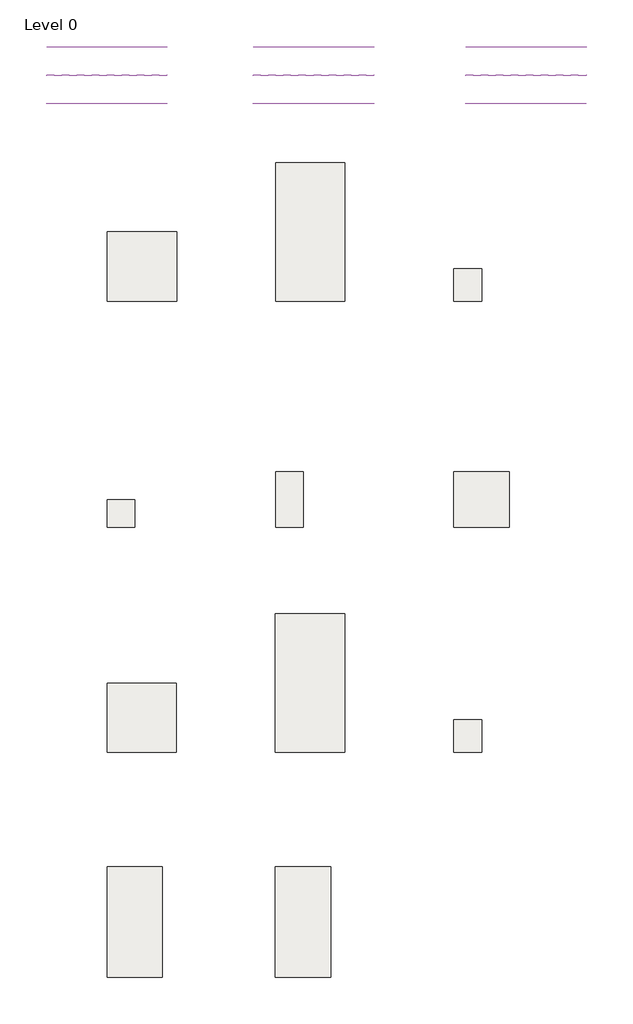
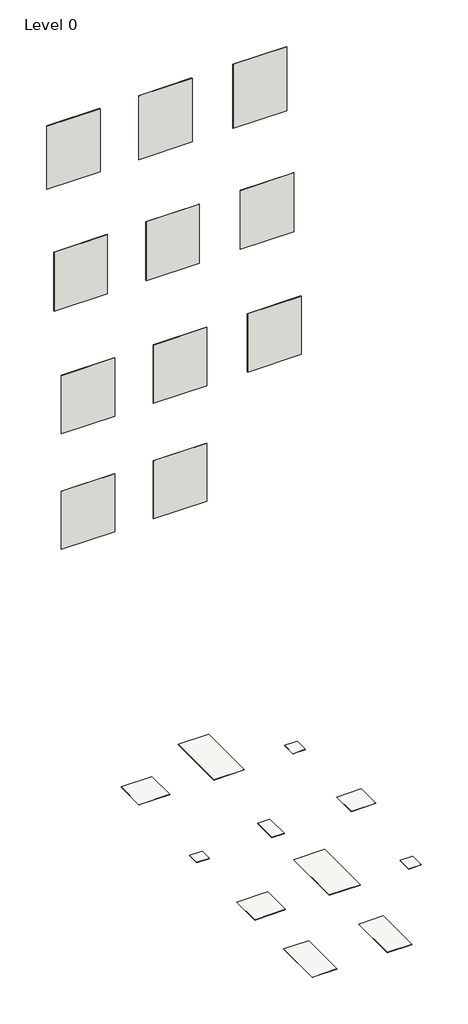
# One storey: 11 slabs, 11 walls.
"""IFC4 building model written with IfcOpenShell, lengths in millimetres."""

from ifc_helpers import new_model, si_unit, frame, origin, place, context, project, spatial, polyline, outline, extrude, element, save

model = new_model("IFC4")

# Units and contexts
model_context = context("Model", 3, world=origin())
ifc_project = project(units=[si_unit("LENGTHUNIT", "METRE", prefix="MILLI")], contexts=[model_context])

# Site, building, storey
site = spatial("IfcSite", under=ifc_project)
building = spatial("IfcBuilding", under=site)
storey = spatial("IfcBuildingStorey", under=building, Name="Level 0", Elevation=0.0)

# Slabs
placement = place(None, origin())
element("IfcSlab", 1, ObjectType="Floor_Tiles_Refin-Prestigio_Travertino-Beige-Lucido-Mosaico-Cube 30.4x35.2 OO30", at=placement, inside=storey, context=model_context, shape_type="SweptSolid", body=[
    extrude(outline(polyline([(10631.1861419, 5741.4623743), (10631.1861419, 5389.4623743), (10327.1861419, 5389.4623743), (10327.1861419, 5741.4623743), (10631.1861419, 5741.4623743)])), frame((0.0, 0.0, -10.0), z_axis=(0.0, 0.0, 1.0), x_axis=(1.0, 0.0, 0.0)), (0.0, 0.0, 1.0), 10.0),
])
element("IfcSlab", 2, ObjectType="Floor_Tiles_Refin-Prestigio_Travertino-Beige-Lucido-75x75 OO01", at=placement, inside=storey, context=model_context, shape_type="SweptSolid", body=[
    extrude(outline(polyline([(7324.3752062, 6139.4623743), (7324.3752062, 5389.4623743), (6574.3752062, 5389.4623743), (6574.3752062, 6139.4623743), (7324.3752062, 6139.4623743)])), frame((0.0, 0.0, -10.0), z_axis=(0.0, 0.0, 1.0), x_axis=(1.0, 0.0, 0.0)), (0.0, 0.0, 1.0), 10.0),
])
element("IfcSlab", 3, ObjectType="Floor_Tiles_Refin-Prestigio_Travertino-Beige-Soft-60x60 OO04", at=placement, inside=storey, context=model_context, shape_type="SweptSolid", body=[
    extrude(outline(polyline([(10927.1861419, 3539.4623743), (10927.1861419, 2939.4623743), (10327.1861419, 2939.4623743), (10327.1861419, 3539.4623743), (10927.1861419, 3539.4623743)])), frame((0.0, 0.0, -10.0), z_axis=(0.0, 0.0, 1.0), x_axis=(1.0, 0.0, 0.0)), (0.0, 0.0, 1.0), 10.0),
])
element("IfcSlab", 4, ObjectType="Floor_Tiles_Refin-Prestigio_Travertino-Beige-Soft-30x60 OO07", at=placement, inside=storey, context=model_context, shape_type="SweptSolid", body=[
    extrude(outline(polyline([(8697.3924055, 3539.4623743), (8697.3924055, 2939.4623743), (8397.3924055, 2939.4623743), (8397.3924055, 3539.4623743), (8697.3924055, 3539.4623743)])), frame((0.0, 0.0, -10.0), z_axis=(0.0, 0.0, 1.0), x_axis=(1.0, 0.0, 0.0)), (0.0, 0.0, 1.0), 10.0),
])
element("IfcSlab", 5, ObjectType="Floor_Tiles_Refin-Prestigio_Travertino-Beige-Lucido-Mosaico-T 30x30 OO36", at=placement, inside=storey, context=model_context, shape_type="SweptSolid", body=[
    extrude(outline(polyline([(6874.3752062, 3239.4623743), (6874.3752062, 2939.4623743), (6574.3752062, 2939.4623743), (6574.3752062, 3239.4623743), (6874.3752062, 3239.4623743)])), frame((0.0, 0.0, -10.0), z_axis=(0.0, 0.0, 1.0), x_axis=(1.0, 0.0, 0.0)), (0.0, 0.0, 1.0), 10.0),
])
element("IfcSlab", 6, ObjectType="Floor_Tiles_Refin-Prestigio_Travertino-Beige-Soft-75x75 ON98", at=placement, inside=storey, context=model_context, shape_type="SweptSolid", body=[
    extrude(outline(polyline([(7322.6009331, 1253.4367235), (7322.6009331, 503.4367235), (6572.6009331, 503.4367235), (6572.6009331, 1253.4367235), (7322.6009331, 1253.4367235)])), frame((0.0, 0.0, -10.0), z_axis=(0.0, 0.0, 1.0), x_axis=(1.0, 0.0, 0.0)), (0.0, 0.0, 1.0), 10.0),
])
element("IfcSlab", 7, ObjectType="Floor_Tiles_Refin-Prestigio_Travertino-Beige-Lucido-75x150 OM86", at=placement, inside=storey, context=model_context, shape_type="SweptSolid", body=[
    extrude(outline(polyline([(9147.3924055, 6888.4192064), (9147.3924055, 5388.4192064), (8397.3924055, 5388.4192064), (8397.3924055, 6888.4192064), (9147.3924055, 6888.4192064)])), frame((0.0, 0.0, -10.0), z_axis=(0.0, 0.0, 1.0), x_axis=(1.0, 0.0, 0.0)), (0.0, 0.0, 1.0), 10.0),
])
element("IfcSlab", 8, ObjectType="Floor_Tiles_Refin-Prestigio_Travertino-Beige-Soft-75x150 OM83", at=placement, inside=storey, context=model_context, shape_type="SweptSolid", body=[
    extrude(outline(polyline([(9145.6181323, 2003.4367235), (9145.6181323, 503.4367235), (8395.6181323, 503.4367235), (8395.6181323, 2003.4367235), (9145.6181323, 2003.4367235)])), frame((0.0, 0.0, -10.0), z_axis=(0.0, 0.0, 1.0), x_axis=(1.0, 0.0, 0.0)), (0.0, 0.0, 1.0), 10.0),
])
element("IfcSlab", 9, ObjectType="Floor_Tiles_Refin-Prestigio_Travertino-Beige-Soft-Mosaico-Cube 30.4x35.2 OO33", at=placement, inside=storey, context=model_context, shape_type="SweptSolid", body=[
    extrude(outline(polyline([(10629.4118688, 855.4367235), (10629.4118688, 503.4367235), (10325.4118688, 503.4367235), (10325.4118688, 855.4367235), (10629.4118688, 855.4367235)])), frame((0.0, 0.0, -10.0), z_axis=(0.0, 0.0, 1.0), x_axis=(1.0, 0.0, 0.0)), (0.0, 0.0, 1.0), 10.0),
])
element("IfcSlab", 10, ObjectType="Floor_Tiles_Refin-Prestigio_Travertino-Beige-Soft-60x120 OZ35", at=placement, inside=storey, context=model_context, shape_type="SweptSolid", body=[
    extrude(outline(polyline([(7172.6009331, -732.5889273), (7172.6009331, -1932.5889273), (6572.6009331, -1932.5889273), (6572.6009331, -732.5889273), (7172.6009331, -732.5889273)])), frame((0.0, 0.0, -10.0), z_axis=(0.0, 0.0, 1.0), x_axis=(1.0, 0.0, 0.0)), (0.0, 0.0, 1.0), 10.0),
])
element("IfcSlab", 11, ObjectType="Floor_Tiles_Refin-Prestigio_Travertino-Dorico-Beige-60x120 RK78", at=placement, inside=storey, context=model_context, shape_type="SweptSolid", body=[
    extrude(outline(polyline([(8995.6181323, -732.5889273), (8995.6181323, -1932.5889273), (8395.6181323, -1932.5889273), (8395.6181323, -732.5889273), (8995.6181323, -732.5889273)])), frame((0.0, 0.0, -10.0), z_axis=(0.0, 0.0, 1.0), x_axis=(1.0, 0.0, 0.0)), (0.0, 0.0, 1.0), 10.0),
])

# Walls
element("IfcWall", 12, ObjectType="Floor_Tiles_Refin-Prestigio_Travertino-Beige-Lucido-75x150 OM86", at=placement, inside=storey, context=model_context, shape_type="SweptSolid", body=[
    extrude(outline(polyline([(9457.3752062, 8132.3838631), (8157.3752062, 8132.3838631), (8157.3752062, 8142.3838631), (9457.3752062, 8142.3838631), (9457.3752062, 8132.3838631)])), frame((0.0, 0.0, 14387.6770443), z_axis=(0.0, 0.0, 1.0), x_axis=(1.0, 0.0, 0.0)), (0.0, 0.0, 1.0), 1641.7417352),
])
element("IfcWall", 13, ObjectType="Floor_Tiles_Refin-Prestigio_Travertino-Beige-Lucido-Mosaico-Cube 30.4x35.2 OO30", at=placement, inside=storey, context=model_context, shape_type="SweptSolid", body=[
    extrude(outline(polyline([(11757.3752062, 8132.3838631), (10457.3752062, 8132.3838631), (10457.3752062, 8142.3838631), (11757.3752062, 8142.3838631), (11757.3752062, 8132.3838631)])), frame((0.0, 0.0, 14387.6770443), z_axis=(0.0, 0.0, 1.0), x_axis=(1.0, 0.0, 0.0)), (0.0, 0.0, 1.0), 1641.7417352),
])
element("IfcWall", 14, ObjectType="Floor_Tiles_Refin-Prestigio_Travertino-Beige-Lucido-75x75 OO01", at=placement, inside=storey, context=model_context, shape_type="SweptSolid", body=[
    extrude(outline(polyline([(7217.3752062, 8132.3838631), (5917.3752062, 8132.3838631), (5917.3752062, 8142.3838631), (7217.3752062, 8142.3838631), (7217.3752062, 8132.3838631)])), frame((0.0, 0.0, 14403.7267346), z_axis=(0.0, 0.0, 1.0), x_axis=(1.0, 0.0, 0.0)), (0.0, 0.0, 1.0), 1625.692045),
])
element("IfcWall", 15, ObjectType="Floor_Tiles_Refin-Prestigio_Travertino-Beige-Lucido-Mosaico-T 30x30 OO36", at=placement, inside=storey, context=model_context, shape_type="SweptSolid", body=[
    extrude(outline(polyline([(7217.3752062, 7827.3838631), (5917.3752062, 7827.3838631), (5917.3752062, 7837.3838631), (7217.3752062, 7837.3838631), (7217.3752062, 7827.3838631)])), frame((0.0, 0.0, 11452.5436262), z_axis=(0.0, 0.0, 1.0), x_axis=(1.0, 0.0, 0.0)), (0.0, 0.0, 1.0), 1513.1985566),
])
element("IfcWall", 16, ObjectType="Floor_Tiles_Refin-Prestigio_Travertino-Beige-Soft-30x60 OO07", at=placement, inside=storey, context=model_context, shape_type="SweptSolid", body=[
    extrude(outline(polyline([(9457.3752062, 7827.3838631), (8157.3752062, 7827.3838631), (8157.3752062, 7837.3838631), (9457.3752062, 7837.3838631), (9457.3752062, 7827.3838631)])), frame((0.0, 0.0, 11452.5436262), z_axis=(0.0, 0.0, 1.0), x_axis=(1.0, 0.0, 0.0)), (0.0, 0.0, 1.0), 1513.1985566),
])
element("IfcWall", 17, ObjectType="Floor_Tiles_Refin-Prestigio_Travertino-Beige-Soft-60x60 OO04", at=placement, inside=storey, context=model_context, shape_type="SweptSolid", body=[
    extrude(outline(polyline([(11757.3752062, 7827.3838631), (10457.3752062, 7827.3838631), (10457.3752062, 7837.3838631), (11757.3752062, 7837.3838631), (11757.3752062, 7827.3838631)])), frame((0.0, 0.0, 11452.5436262), z_axis=(0.0, 0.0, 1.0), x_axis=(1.0, 0.0, 0.0)), (0.0, 0.0, 1.0), 1513.1985566),
])
element("IfcWall", 18, ObjectType="Floor_Tiles_Refin-Prestigio_Travertino-Beige-Soft-75x75 ON98", at=placement, inside=storey, context=model_context, shape_type="SweptSolid", body=[
    extrude(outline(polyline([(7217.3752062, 7522.3838631), (5917.3752062, 7522.3838631), (5917.3752062, 7532.3838631), (7217.3752062, 7532.3838631), (7217.3752062, 7522.3838631)])), frame((0.0, 0.0, 8479.1027214), z_axis=(0.0, 0.0, 1.0), x_axis=(1.0, 0.0, 0.0)), (0.0, 0.0, 1.0), 1502.5740159),
])
element("IfcWall", 19, ObjectType="Floor_Tiles_Refin-Prestigio_Travertino-Beige-Soft-75x150 OM83", at=placement, inside=storey, context=model_context, shape_type="SweptSolid", body=[
    extrude(outline(polyline([(9457.3752062, 7522.3838631), (8157.3752062, 7522.3838631), (8157.3752062, 7532.3838631), (9457.3752062, 7532.3838631), (9457.3752062, 7522.3838631)])), frame((0.0, 0.0, 8479.1027214), z_axis=(0.0, 0.0, 1.0), x_axis=(1.0, 0.0, 0.0)), (0.0, 0.0, 1.0), 1502.5740159),
])
element("IfcWall", 20, ObjectType="Floor_Tiles_Refin-Prestigio_Travertino-Beige-Soft-Mosaico-Cube 30.4x35.2 OO33", at=placement, inside=storey, context=model_context, shape_type="SweptSolid", body=[
    extrude(outline(polyline([(11757.3752062, 7522.3838631), (10457.3752062, 7522.3838631), (10457.3752062, 7532.3838631), (11757.3752062, 7532.3838631), (11757.3752062, 7522.3838631)])), frame((0.0, 0.0, 8479.1027214), z_axis=(0.0, 0.0, 1.0), x_axis=(1.0, 0.0, 0.0)), (0.0, 0.0, 1.0), 1502.5740159),
])
element("IfcWall", 21, ObjectType="Floor_Tiles_Refin-Prestigio_Travertino-Beige-Soft-60x120 OZ35", at=placement, inside=storey, context=model_context, shape_type="SweptSolid", body=[
    extrude(outline(polyline([(5917.3752062, 7532.3838631), (7217.3752062, 7532.3838631), (7217.3752062, 7522.3838631), (5917.3752062, 7522.3838631), (5917.3752062, 7532.3838631)])), frame((0.0, 0.0, 5505.6618166), z_axis=(0.0, 0.0, 1.0), x_axis=(1.0, 0.0, 0.0)), (0.0, 0.0, 1.0), 1491.9494753),
])
element("IfcWall", 22, ObjectType="Floor_Tiles_Refin-Prestigio_Travertino-Dorico-Beige-60x120 RK78", at=placement, inside=storey, context=model_context, shape_type="SweptSolid", body=[
    extrude(outline(polyline([(8157.3752062, 7532.3838631), (9457.3752062, 7532.3838631), (9457.3752062, 7522.3838631), (8157.3752062, 7522.3838631), (8157.3752062, 7532.3838631)])), frame((0.0, 0.0, 5505.6618166), z_axis=(0.0, 0.0, 1.0), x_axis=(1.0, 0.0, 0.0)), (0.0, 0.0, 1.0), 1491.9494753),
])

save(model, "model.ifc")
